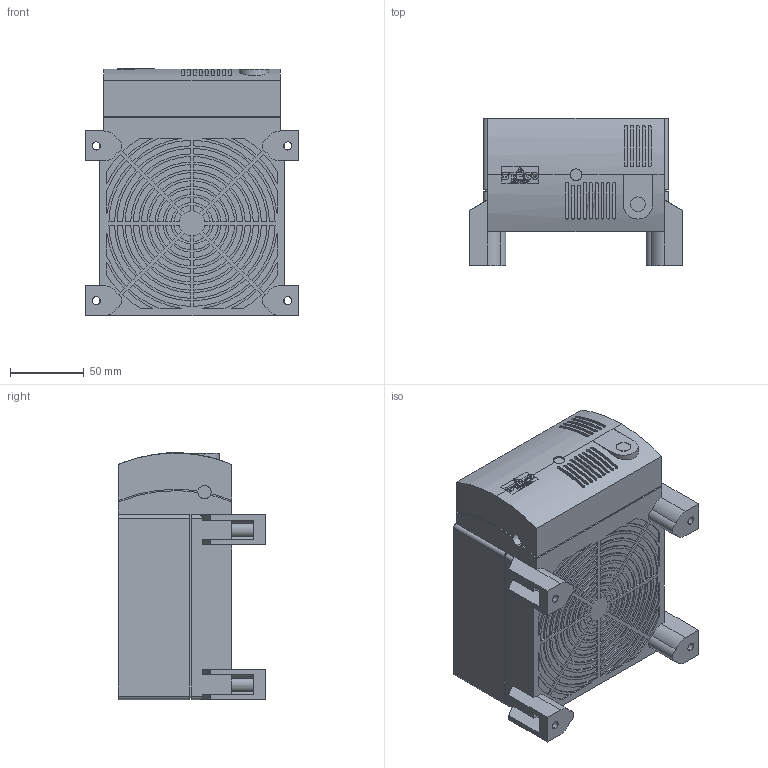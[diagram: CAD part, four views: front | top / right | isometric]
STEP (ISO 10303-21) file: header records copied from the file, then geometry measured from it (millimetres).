
FILE_DESCRIPTION (( 'STEP AP214' ), '1' );
FILE_NAME ('CR03051_eplan_10_2012.STEP', '2012-11-16T09:59:44', ( 'Nutzer' ), ( '' ), 'SwSTEP 2.0', 'SolidWorks 2012', '' );
FILE_SCHEMA (( 'AUTOMOTIVE_DESIGN' ));
Length unit declared in the file: millimetre
Products named in the file (1): CR03051_eplan_10_2012
Bounding box: 145 x 100 x 167.9 mm (x, y, z)
Volume: 1582686 mm3; surface area: 118746.1 mm2
Topology: 2 solids, 2 shells, 1079 faces, 2765 edges, 1836 vertices
Faces by surface type: plane 640, cylinder 393, bspline 46
Entity records: 33556 total; most frequent: CARTESIAN_POINT 6827, ORIENTED_EDGE 5530, DIRECTION 5491, EDGE_CURVE 2765, LINE 1851, VECTOR 1851, VERTEX_POINT 1836, AXIS2_PLACEMENT_3D 1820
